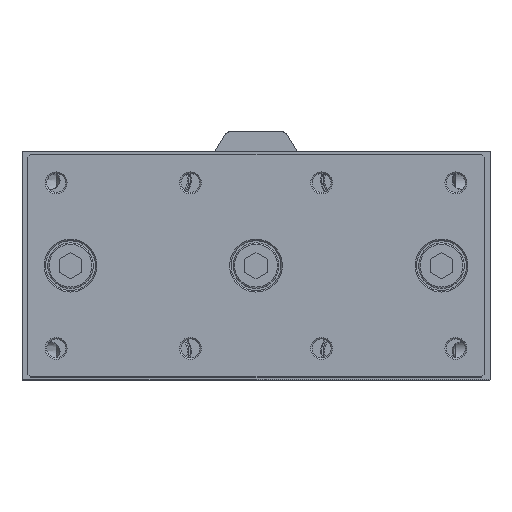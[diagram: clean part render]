
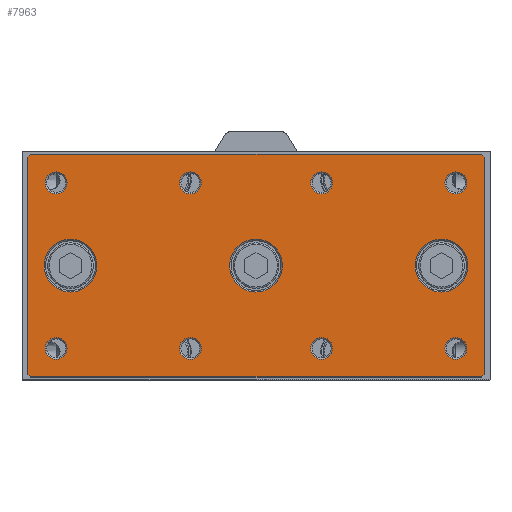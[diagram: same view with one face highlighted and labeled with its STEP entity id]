
A CAD part, top view. The second image highlights one B-rep face of the part: STEP entity #7963.
In plain terms, the highlighted planar face has unit normal (0, 0, 1).
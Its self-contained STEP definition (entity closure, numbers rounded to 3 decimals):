
#7745=CARTESIAN_POINT('',(-78.641,-40.316,200.5));
#7746=VERTEX_POINT('',#7745);
#7747=CARTESIAN_POINT('',(-79.641,-39.316,200.5));
#7748=VERTEX_POINT('',#7747);
#7749=CARTESIAN_POINT('',(-78.641,-40.316,200.5));
#7750=DIRECTION('',(-0.707,0.707,0.0));
#7751=VECTOR('',#7750,1.414);
#7752=LINE('',#7749,#7751);
#7753=EDGE_CURVE('',#7746,#7748,#7752,.T.);
#7780=CARTESIAN_POINT('',(0.359,-1.316,200.5));
#7781=DIRECTION('',(0.0,0.0,1.0));
#7782=DIRECTION('',(1.0,0.0,0.0));
#7783=AXIS2_PLACEMENT_3D('',#7780,#7781,#7782);
#7784=PLANE('',#7783);
#7785=ORIENTED_EDGE('',*,*,#7753,.F.);
#7786=CARTESIAN_POINT('',(79.359,-40.316,200.5));
#7787=VERTEX_POINT('',#7786);
#7788=CARTESIAN_POINT('',(79.359,-40.316,200.5));
#7789=DIRECTION('',(-1.0,0.0,0.0));
#7790=VECTOR('',#7789,158.0);
#7791=LINE('',#7788,#7790);
#7792=EDGE_CURVE('',#7787,#7746,#7791,.T.);
#7793=ORIENTED_EDGE('',*,*,#7792,.F.);
#7794=CARTESIAN_POINT('',(80.359,-39.316,200.5));
#7795=VERTEX_POINT('',#7794);
#7796=CARTESIAN_POINT('',(80.359,-39.316,200.5));
#7797=DIRECTION('',(-0.707,-0.707,0.0));
#7798=VECTOR('',#7797,1.414);
#7799=LINE('',#7796,#7798);
#7800=EDGE_CURVE('',#7795,#7787,#7799,.T.);
#7801=ORIENTED_EDGE('',*,*,#7800,.F.);
#7802=CARTESIAN_POINT('',(80.359,36.684,200.5));
#7803=VERTEX_POINT('',#7802);
#7804=CARTESIAN_POINT('',(80.359,36.684,200.5));
#7805=DIRECTION('',(0.0,-1.0,0.0));
#7806=VECTOR('',#7805,76.);
#7807=LINE('',#7804,#7806);
#7808=EDGE_CURVE('',#7803,#7795,#7807,.T.);
#7809=ORIENTED_EDGE('',*,*,#7808,.F.);
#7810=CARTESIAN_POINT('',(79.359,37.684,200.5));
#7811=VERTEX_POINT('',#7810);
#7812=CARTESIAN_POINT('',(79.359,37.684,200.5));
#7813=DIRECTION('',(0.707,-0.707,0.0));
#7814=VECTOR('',#7813,1.414);
#7815=LINE('',#7812,#7814);
#7816=EDGE_CURVE('',#7811,#7803,#7815,.T.);
#7817=ORIENTED_EDGE('',*,*,#7816,.F.);
#7818=CARTESIAN_POINT('',(-78.641,37.684,200.5));
#7819=VERTEX_POINT('',#7818);
#7820=CARTESIAN_POINT('',(-78.641,37.684,200.5));
#7821=DIRECTION('',(1.0,0.0,0.0));
#7822=VECTOR('',#7821,158.0);
#7823=LINE('',#7820,#7822);
#7824=EDGE_CURVE('',#7819,#7811,#7823,.T.);
#7825=ORIENTED_EDGE('',*,*,#7824,.F.);
#7826=CARTESIAN_POINT('',(-79.641,36.684,200.5));
#7827=VERTEX_POINT('',#7826);
#7828=CARTESIAN_POINT('',(-79.641,36.684,200.5));
#7829=DIRECTION('',(0.707,0.707,0.0));
#7830=VECTOR('',#7829,1.414);
#7831=LINE('',#7828,#7830);
#7832=EDGE_CURVE('',#7827,#7819,#7831,.T.);
#7833=ORIENTED_EDGE('',*,*,#7832,.F.);
#7834=CARTESIAN_POINT('',(-79.641,-39.316,200.5));
#7835=DIRECTION('',(0.0,1.0,0.0));
#7836=VECTOR('',#7835,76.0);
#7837=LINE('',#7834,#7836);
#7838=EDGE_CURVE('',#7748,#7827,#7837,.T.);
#7839=ORIENTED_EDGE('',*,*,#7838,.F.);
#7840=EDGE_LOOP('',(#7785,#7793,#7801,#7809,#7817,#7825,#7833,#7839));
#7841=FACE_OUTER_BOUND('',#7840,.T.);
#7842=CARTESIAN_POINT('',(-65.818,27.684,200.5));
#7843=VERTEX_POINT('',#7842);
#7844=CARTESIAN_POINT('',(-69.641,27.684,200.5));
#7845=DIRECTION('',(0.0,0.0,1.0));
#7846=DIRECTION('',(-1.0,0.0,0.0));
#7847=AXIS2_PLACEMENT_3D('',#7844,#7845,#7846);
#7848=CIRCLE('',#7847,3.823);
#7849=EDGE_CURVE('',#7843,#7843,#7848,.T.);
#7850=ORIENTED_EDGE('',*,*,#7849,.F.);
#7851=EDGE_LOOP('',(#7850));
#7852=FACE_BOUND('',#7851,.T.);
#7853=CARTESIAN_POINT('',(-18.818,27.684,200.5));
#7854=VERTEX_POINT('',#7853);
#7855=CARTESIAN_POINT('',(-22.641,27.684,200.5));
#7856=DIRECTION('',(0.0,0.0,1.0));
#7857=DIRECTION('',(-1.0,0.0,0.0));
#7858=AXIS2_PLACEMENT_3D('',#7855,#7856,#7857);
#7859=CIRCLE('',#7858,3.823);
#7860=EDGE_CURVE('',#7854,#7854,#7859,.T.);
#7861=ORIENTED_EDGE('',*,*,#7860,.F.);
#7862=EDGE_LOOP('',(#7861));
#7863=FACE_BOUND('',#7862,.T.);
#7864=CARTESIAN_POINT('',(9.609,-1.316,200.5));
#7865=VERTEX_POINT('',#7864);
#7866=CARTESIAN_POINT('',(0.359,-1.316,200.5));
#7867=DIRECTION('',(0.0,0.0,1.0));
#7868=DIRECTION('',(-1.0,0.0,0.0));
#7869=AXIS2_PLACEMENT_3D('',#7866,#7867,#7868);
#7870=CIRCLE('',#7869,9.25);
#7871=EDGE_CURVE('',#7865,#7865,#7870,.T.);
#7872=ORIENTED_EDGE('',*,*,#7871,.F.);
#7873=EDGE_LOOP('',(#7872));
#7874=FACE_BOUND('',#7873,.T.);
#7875=CARTESIAN_POINT('',(74.609,-1.316,200.5));
#7876=VERTEX_POINT('',#7875);
#7877=CARTESIAN_POINT('',(65.359,-1.316,200.5));
#7878=DIRECTION('',(0.0,0.0,1.0));
#7879=DIRECTION('',(-1.0,0.0,0.0));
#7880=AXIS2_PLACEMENT_3D('',#7877,#7878,#7879);
#7881=CIRCLE('',#7880,9.25);
#7882=EDGE_CURVE('',#7876,#7876,#7881,.T.);
#7883=ORIENTED_EDGE('',*,*,#7882,.F.);
#7884=EDGE_LOOP('',(#7883));
#7885=FACE_BOUND('',#7884,.T.);
#7886=CARTESIAN_POINT('',(-55.391,-1.316,200.5));
#7887=VERTEX_POINT('',#7886);
#7888=CARTESIAN_POINT('',(-64.641,-1.316,200.5));
#7889=DIRECTION('',(0.0,0.0,1.0));
#7890=DIRECTION('',(-1.0,0.0,0.0));
#7891=AXIS2_PLACEMENT_3D('',#7888,#7889,#7890);
#7892=CIRCLE('',#7891,9.25);
#7893=EDGE_CURVE('',#7887,#7887,#7892,.T.);
#7894=ORIENTED_EDGE('',*,*,#7893,.F.);
#7895=EDGE_LOOP('',(#7894));
#7896=FACE_BOUND('',#7895,.T.);
#7897=CARTESIAN_POINT('',(74.182,-30.316,200.5));
#7898=VERTEX_POINT('',#7897);
#7899=CARTESIAN_POINT('',(70.359,-30.316,200.5));
#7900=DIRECTION('',(0.0,0.0,1.0));
#7901=DIRECTION('',(-1.0,0.0,0.0));
#7902=AXIS2_PLACEMENT_3D('',#7899,#7900,#7901);
#7903=CIRCLE('',#7902,3.823);
#7904=EDGE_CURVE('',#7898,#7898,#7903,.T.);
#7905=ORIENTED_EDGE('',*,*,#7904,.F.);
#7906=EDGE_LOOP('',(#7905));
#7907=FACE_BOUND('',#7906,.T.);
#7908=CARTESIAN_POINT('',(-65.818,-30.316,200.5));
#7909=VERTEX_POINT('',#7908);
#7910=CARTESIAN_POINT('',(-69.641,-30.316,200.5));
#7911=DIRECTION('',(0.0,0.0,1.0));
#7912=DIRECTION('',(-1.0,0.0,0.0));
#7913=AXIS2_PLACEMENT_3D('',#7910,#7911,#7912);
#7914=CIRCLE('',#7913,3.823);
#7915=EDGE_CURVE('',#7909,#7909,#7914,.T.);
#7916=ORIENTED_EDGE('',*,*,#7915,.F.);
#7917=EDGE_LOOP('',(#7916));
#7918=FACE_BOUND('',#7917,.T.);
#7919=CARTESIAN_POINT('',(74.182,27.684,200.5));
#7920=VERTEX_POINT('',#7919);
#7921=CARTESIAN_POINT('',(70.359,27.684,200.5));
#7922=DIRECTION('',(0.0,0.0,1.0));
#7923=DIRECTION('',(-1.0,0.0,0.0));
#7924=AXIS2_PLACEMENT_3D('',#7921,#7922,#7923);
#7925=CIRCLE('',#7924,3.823);
#7926=EDGE_CURVE('',#7920,#7920,#7925,.T.);
#7927=ORIENTED_EDGE('',*,*,#7926,.F.);
#7928=EDGE_LOOP('',(#7927));
#7929=FACE_BOUND('',#7928,.T.);
#7930=CARTESIAN_POINT('',(27.182,-30.316,200.5));
#7931=VERTEX_POINT('',#7930);
#7932=CARTESIAN_POINT('',(23.359,-30.316,200.5));
#7933=DIRECTION('',(0.0,0.0,1.0));
#7934=DIRECTION('',(-1.0,0.0,0.0));
#7935=AXIS2_PLACEMENT_3D('',#7932,#7933,#7934);
#7936=CIRCLE('',#7935,3.824);
#7937=EDGE_CURVE('',#7931,#7931,#7936,.T.);
#7938=ORIENTED_EDGE('',*,*,#7937,.F.);
#7939=EDGE_LOOP('',(#7938));
#7940=FACE_BOUND('',#7939,.T.);
#7941=CARTESIAN_POINT('',(-18.818,-30.316,200.5));
#7942=VERTEX_POINT('',#7941);
#7943=CARTESIAN_POINT('',(-22.641,-30.316,200.5));
#7944=DIRECTION('',(0.0,0.0,1.0));
#7945=DIRECTION('',(-1.0,0.0,0.0));
#7946=AXIS2_PLACEMENT_3D('',#7943,#7944,#7945);
#7947=CIRCLE('',#7946,3.823);
#7948=EDGE_CURVE('',#7942,#7942,#7947,.T.);
#7949=ORIENTED_EDGE('',*,*,#7948,.F.);
#7950=EDGE_LOOP('',(#7949));
#7951=FACE_BOUND('',#7950,.T.);
#7952=CARTESIAN_POINT('',(27.182,27.684,200.5));
#7953=VERTEX_POINT('',#7952);
#7954=CARTESIAN_POINT('',(23.359,27.684,200.5));
#7955=DIRECTION('',(0.0,0.0,1.0));
#7956=DIRECTION('',(-1.0,0.0,0.0));
#7957=AXIS2_PLACEMENT_3D('',#7954,#7955,#7956);
#7958=CIRCLE('',#7957,3.824);
#7959=EDGE_CURVE('',#7953,#7953,#7958,.T.);
#7960=ORIENTED_EDGE('',*,*,#7959,.F.);
#7961=EDGE_LOOP('',(#7960));
#7962=FACE_BOUND('',#7961,.T.);
#7963=ADVANCED_FACE('',(#7841,#7852,#7863,#7874,#7885,#7896,#7907,#7918,#7929,#7940,#7951,#7962),#7784,.T.);
